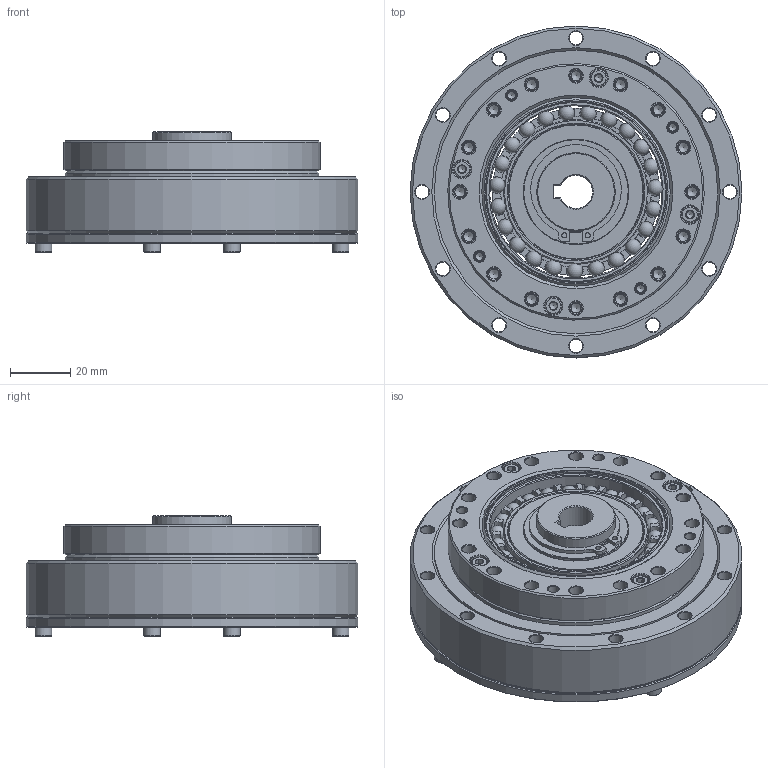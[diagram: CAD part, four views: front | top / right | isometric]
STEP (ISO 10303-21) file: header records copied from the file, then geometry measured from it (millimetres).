
FILE_DESCRIPTION(/* description */ (''),/* implementation_level */ '2;1');
FILE_NAME(/* name */ 'LHG-25-XX-U-II-φ11.stp',/* time_stamp */ '2023-07-08T16:10:10+08:00',/* author */ (''),/* organization */ (''),/* preprocessor_version */ 'ST-DEVELOPER v16.7',/* originating_system */ 'SIEMENS PLM Software NX 12.0',/* authorisation */ '');
FILE_SCHEMA (('AUTOMOTIVE_DESIGN { 1 0 10303 214 3 1 1 1 }'));
Length unit declared in the file: millimetre
Products named in the file (18): EB456009-25KC-46; EB456009-25KE-01; TC-84x94x5; O-68x1; O-90x1.5; GB-T70.1-2000,M3x8; GB-T70.1-2000,M3x12; 铜垫圈26.5x35x1; 轴用弹性挡圈φ26; CSG-25-00-01-K11; CS-25-00-04; CS-25-00-02; CS-25-XX-03; 柔轮LHT-25; 刚轮LHT-25; EB456009-25KE; 交叉轴承LHT-25; LHG-25-XX-U-II-φ11
Assembly tree (23 placements, depth 3):
  LHG-25-XX-U-II-φ11
    交叉轴承LHT-25
      TC-84x94x5
    刚轮LHT-25
    柔轮LHT-25
    EB456009-25KE
      EB456009-25KE-01
      EB456009-25KC-46
    CS-25-XX-03
    CS-25-00-02
    CS-25-00-04
    CSG-25-00-01-K11
    轴用弹性挡圈φ26
    铜垫圈26.5x35x1
    GB-T70.1-2000,M3x12  x4
    GB-T70.1-2000,M3x8  x4
    O-90x1.5
    O-68x1
Bounding box: 110 x 110 x 40 mm (x, y, z)
Volume: 168785.6 mm3; surface area: 117132.9 mm2
Topology: 47 solids, 47 shells, 969 faces, 2326 edges, 1431 vertices
Faces by surface type: plane 323, cone 290, cylinder 236, torus 95, sphere 23, revolution 2
Full cylindrical faces by diameter (mm): 1.733 x2, 2.5 x16, 2.874 x8, 3.3 x16, 3.5 x16, 4.5 x40, 5.5 x8, 6 x4, 24.9 x1, 26 x2, 26.5 x4, 32 x1, 35 x1, 42.8 x1, 44 x1, 45 x2, 47.92 x2, 50 x1, 53 x1, 55.4 x1, 57.17 x2, 60 x2, 60.82 x1, 62.21 x1, 62.46 x1, 66 x1, 67 x2, 68 x1, 70.6 x1, 76 x1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
Entity records: 22991 total; most frequent: CARTESIAN_POINT 5152, DIRECTION 3802, ORIENTED_EDGE 2832, AXIS2_PLACEMENT_3D 1697, EDGE_CURVE 1416, EDGE_LOOP 1344, VERTEX_POINT 1145, FACE_BOUND 1071
